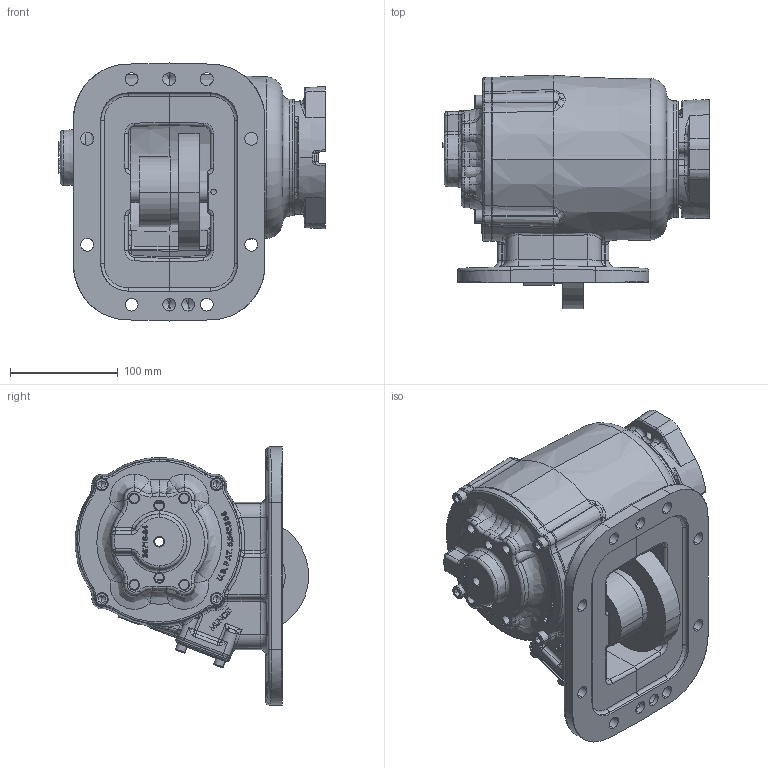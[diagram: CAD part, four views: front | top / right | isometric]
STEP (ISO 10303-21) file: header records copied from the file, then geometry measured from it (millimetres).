
FILE_DESCRIPTION (( 'STEP AP203' ), '1' );
FILE_NAME ('CS8S-XXXXX-X4RX.STEP', '2012-06-12T14:46:21', ( '' ), ( '' ), 'SwSTEP 2.0', 'SolidWorks 2012', '' );
FILE_SCHEMA (( 'CONFIG_CONTROL_DESIGN' ));
Length unit declared in the file: millimetre
Products named in the file (3): CS8S-XXXXX-X4RX; 14T39141; CS8S-XXXXX-X4XX
Assembly tree (2 placements, depth 2):
  CS8S-XXXXX-X4RX
    CS8S-XXXXX-X4XX
    14T39141
Bounding box: 247.66 x 216.75 x 239.61 mm (x, y, z)
Volume: 1843729.5 mm3; surface area: 428146.6 mm2
Topology: 2 solids, 14 shells, 2131 faces, 5426 edges, 3356 vertices
Faces by surface type: bspline 804, plane 613, cylinder 427, cone 205, torus 74, sphere 8
Entity records: 109060 total; most frequent: CARTESIAN_POINT 63459, ORIENTED_EDGE 10694, DIRECTION 7386, EDGE_CURVE 5347, VERTEX_POINT 3356, AXIS2_PLACEMENT_3D 2587, EDGE_LOOP 2329, VECTOR 2212
